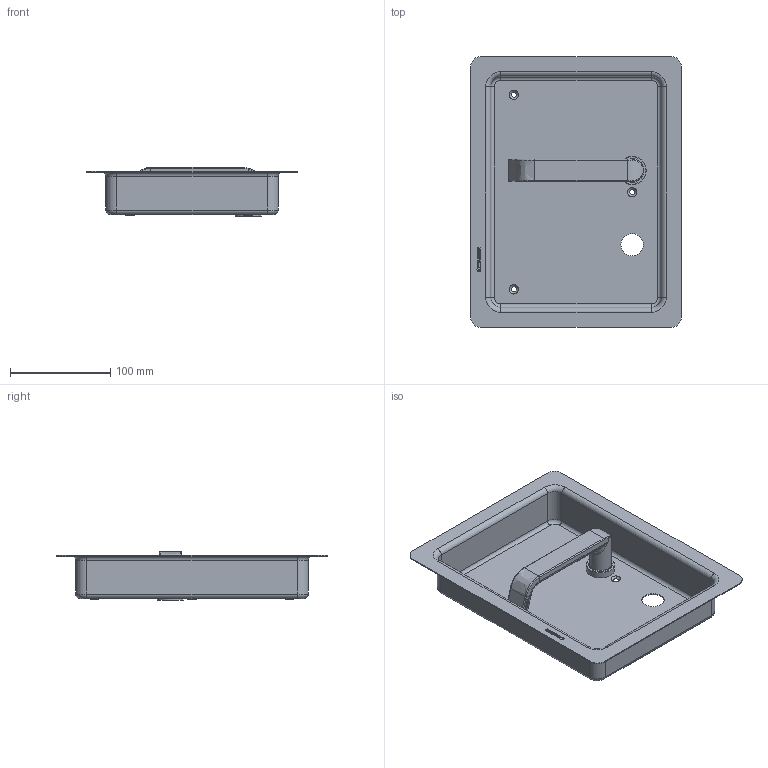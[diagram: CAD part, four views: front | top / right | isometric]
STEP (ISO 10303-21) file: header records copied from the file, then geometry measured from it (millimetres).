
FILE_DESCRIPTION(/* description */ (''),/* implementation_level */ '2;1');
FILE_NAME(/* name */ 'C:\ADSK_DMS_WS\Designs\Vorschläge\Loc Schalen\Muschel Serie 6\S6.42.D2Links\Heusser-Muschel S6.42.D2.274L.stp',/* time_stamp */ '2020-10-14T10:12:49+02:00',/* author */ ('gm'),/* organization */ (''),/* preprocessor_version */ 'ST-DEVELOPER v16.5',/* originating_system */ 'Autodesk Inventor 2017',/* authorisation */ '');
FILE_SCHEMA (('AUTOMOTIVE_DESIGN { 1 0 10303 214 3 1 1 }'));
Length unit declared in the file: millimetre
Products named in the file (1): S6.42.D2.0L
Bounding box: 210 x 270 x 49 mm (x, y, z)
Volume: 130166.7 mm3; surface area: 188116.7 mm2
Topology: 1 solids, 2 shells, 608 faces, 1597 edges, 1034 vertices
Faces by surface type: plane 294, bspline 208, cylinder 69, torus 21, cone 16
Full cylindrical faces by diameter (mm): 1.7 x2, 6 x1, 14.2 x1, 16 x3, 18 x1, 19 x1, 19.1 x1, 22 x1, 22.3 x1, 23 x1, 23.2 x1, 24 x1, 25 x1, 26 x1, 28 x1
Entity records: 20796 total; most frequent: CARTESIAN_POINT 6352, ORIENTED_EDGE 3102, DIRECTION 2315, EDGE_CURVE 1551, VERTEX_POINT 1026, LINE 953, VECTOR 953, EDGE_LOOP 707
